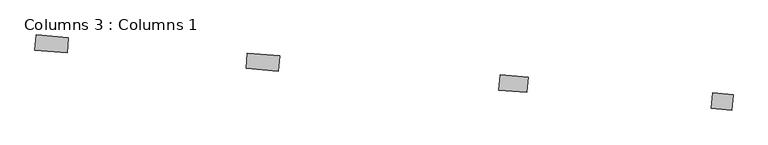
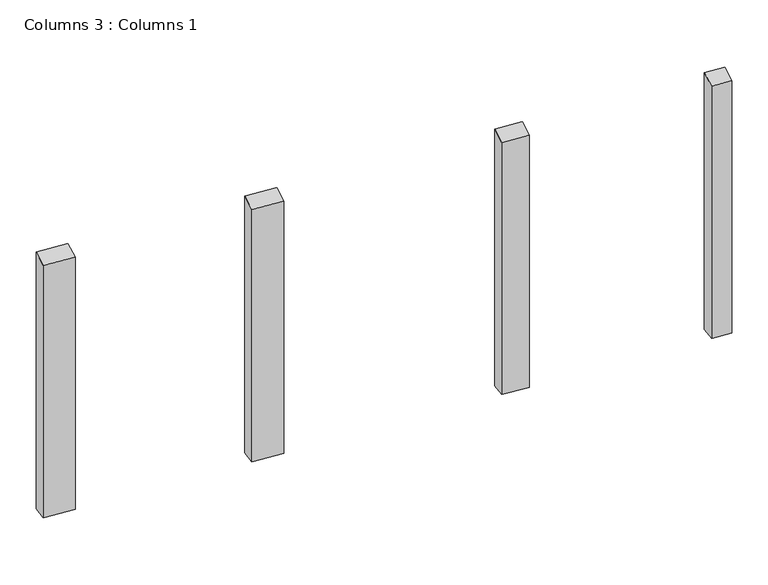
"""IFC4 building model written with IfcOpenShell, lengths in millimetres: column geometry, Columns 3 : Columns 1."""

from ifc_helpers import new_model, si_unit, frame, origin, place, context, project, spatial, polyline, outline, extrude, source, transform, mapped, element, save


def columns_3_columns_1_a7fad1db(model_context):
    return source(origin(), model_context, "Body", "SweptSolid", [
        extrude(outline(polyline([(-100.0000001, 0.0), (0.0, 0.0), (0.0, -1881.0863747), (-100.0000001, -1844.6893513), (-100.0000001, 0.0)])), frame((-368416.3740101, -7091.3312898, 58532.6804645), z_axis=(-0.9963374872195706, 0.08550796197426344, 0.0), x_axis=(0.08550796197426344, 0.9963374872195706, 0.0)), (0.0, 0.0, 1.0), 210.1540602),
        extrude(outline(polyline([(-100.0, 0.0), (0.0, 0.0), (0.0, -1881.0863747), (-100.0, -1844.6893513), (-100.0, 0.0)])), frame((-367041.4282777, -7209.3322774, 58532.6804645), z_axis=(-0.9963374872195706, 0.08550796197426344, 0.0), x_axis=(0.08550796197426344, 0.9963374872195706, 0.0)), (0.0, 0.0, 1.0), 210.1540602),
        extrude(outline(polyline([(-100.0, 0.0), (0.0, 0.0), (0.0, -1881.0863747), (-100.0, -1844.6893513), (-100.0, 0.0)])), frame((-365422.2859621, -7348.2907742, 58532.6804645), z_axis=(-0.9963374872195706, 0.08550796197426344, 0.0), x_axis=(0.08550796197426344, 0.9963374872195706, 0.0)), (0.0, 0.0, 1.0), 182.6540518),
        extrude(outline(polyline([(-100.0, 0.0), (0.0, 0.0), (0.0, -1881.0863747), (-100.0, -1844.6893513), (-100.0, 0.0)])), frame((-364087.9596896, -7462.8057068, 58532.6804645), z_axis=(-0.9963374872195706, 0.08550796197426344, 0.0), x_axis=(0.08550796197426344, 0.9963374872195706, 0.0)), (0.0, 0.0, 1.0), 134.4795282),
    ])


if __name__ == "__main__":
    model = new_model("IFC4")
    model_context = context("Model", 3, world=origin())
    ifc_project = project(units=[si_unit("LENGTHUNIT", "METRE", prefix="MILLI")], contexts=[model_context])
    site = spatial("IfcSite", under=ifc_project)
    building = spatial("IfcBuilding", under=site)
    placement = place(None, origin())
    columns_3_columns_1_shape = columns_3_columns_1_a7fad1db(model_context)
    element("IfcColumn", 1, ObjectType="Columns 3 : Columns 1", at=placement, inside=building, context=model_context, shape_type="MappedRepresentation", body=[
        mapped(columns_3_columns_1_shape, transform((0.0, 0.0, 0.0), x_axis=(1.0, 0.0, 0.0), y_axis=(0.0, 1.0, 0.0), z_axis=(0.0, 0.0, 1.0))),
    ])
    save(model, "model.ifc")
